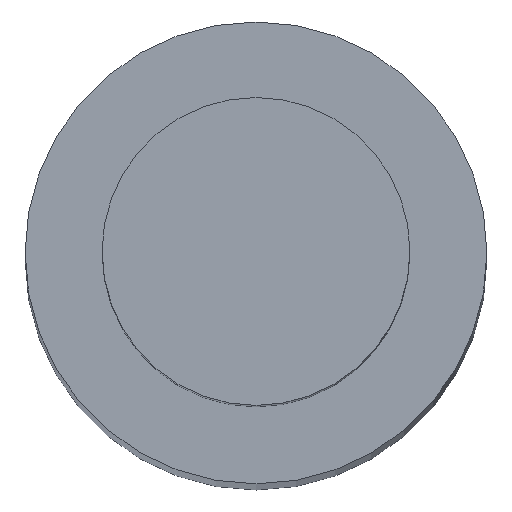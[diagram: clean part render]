
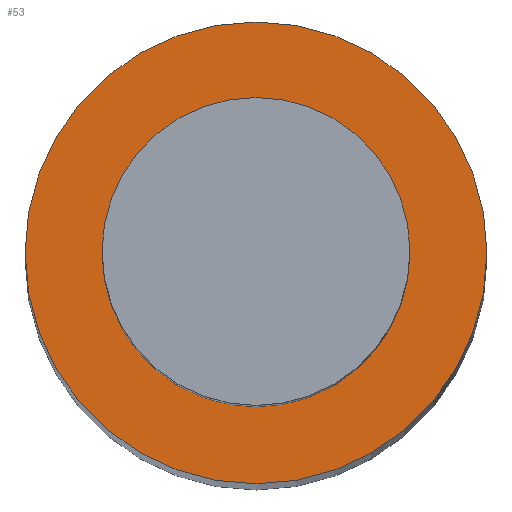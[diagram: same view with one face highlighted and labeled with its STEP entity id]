
A CAD part, top view. The second image highlights one B-rep face of the part: STEP entity #53.
In plain terms, the highlighted planar face has unit normal (0, 0, 1).
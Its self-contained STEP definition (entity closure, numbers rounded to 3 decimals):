
#53=ADVANCED_FACE('',(#101,#102),#103,.T.);
#101=FACE_BOUND('',#141,.T.);
#102=FACE_OUTER_BOUND('',#142,.T.);
#103=PLANE('',#143);
#141=EDGE_LOOP('',(#215,#216));
#142=EDGE_LOOP('',(#217,#218));
#143=AXIS2_PLACEMENT_3D('',#219,#220,#221);
#215=ORIENTED_EDGE('',*,*,#240,.T.);
#216=ORIENTED_EDGE('',*,*,#235,.T.);
#217=ORIENTED_EDGE('',*,*,#227,.T.);
#218=ORIENTED_EDGE('',*,*,#247,.T.);
#219=CARTESIAN_POINT('',(0.0,0.0,45.99));
#220=DIRECTION('',(0.0,0.0,1.0));
#221=DIRECTION('',(1.0,0.0,0.0));
#227=EDGE_CURVE('',#254,#258,#260,.T.);
#235=EDGE_CURVE('',#274,#271,#275,.T.);
#240=EDGE_CURVE('',#271,#274,#281,.T.);
#247=EDGE_CURVE('',#258,#254,#288,.T.);
#254=VERTEX_POINT('',#295);
#258=VERTEX_POINT('',#300);
#260=CIRCLE('',#303,3.0);
#271=VERTEX_POINT('',#316);
#274=VERTEX_POINT('',#320);
#275=CIRCLE('',#321,1.99);
#281=CIRCLE('',#328,1.99);
#288=CIRCLE('',#335,3.0);
#295=CARTESIAN_POINT('',(3.0,0.0,45.99));
#300=CARTESIAN_POINT('',(-3.0,0.,45.99));
#303=AXIS2_PLACEMENT_3D('',#345,#346,#347);
#316=CARTESIAN_POINT('',(1.99,0.0,45.99));
#320=CARTESIAN_POINT('',(-1.99,0.,45.99));
#321=AXIS2_PLACEMENT_3D('',#357,#358,#359);
#328=AXIS2_PLACEMENT_3D('',#367,#368,#369);
#335=AXIS2_PLACEMENT_3D('',#376,#377,#378);
#345=CARTESIAN_POINT('',(0.0,0.0,45.99));
#346=DIRECTION('',(0.0,0.0,1.0));
#347=DIRECTION('',(1.0,0.0,0.0));
#357=CARTESIAN_POINT('',(0.0,0.0,45.99));
#358=DIRECTION('',(0.0,0.0,-1.0));
#359=DIRECTION('',(1.0,0.0,0.0));
#367=CARTESIAN_POINT('',(0.0,0.0,45.99));
#368=DIRECTION('',(0.0,0.0,-1.0));
#369=DIRECTION('',(1.0,0.0,0.0));
#376=CARTESIAN_POINT('',(0.0,0.0,45.99));
#377=DIRECTION('',(0.0,0.0,1.0));
#378=DIRECTION('',(1.0,0.0,0.0));
